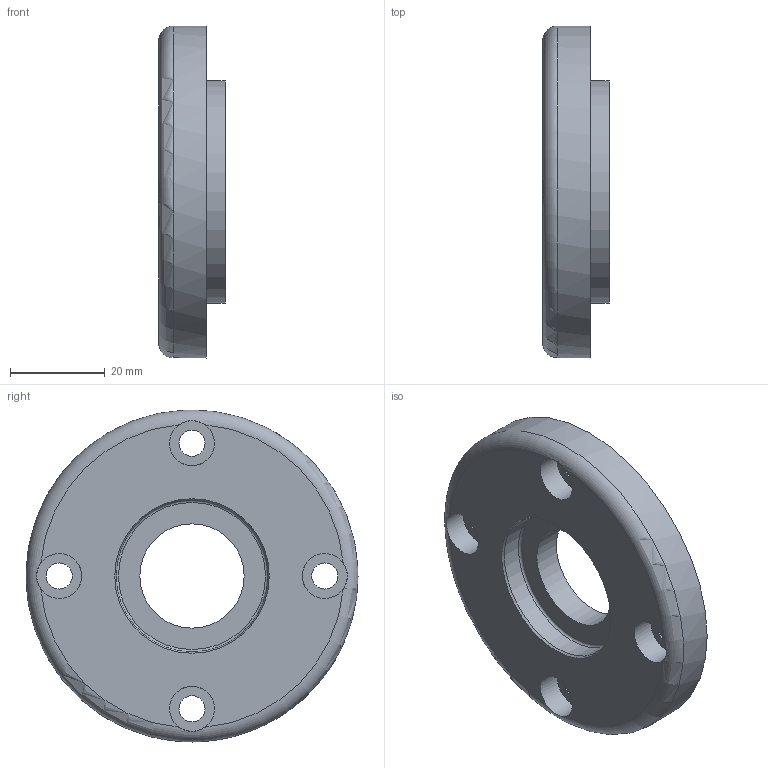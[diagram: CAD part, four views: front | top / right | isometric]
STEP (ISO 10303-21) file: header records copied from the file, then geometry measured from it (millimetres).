
FILE_DESCRIPTION(/* description */ (''),/* implementation_level */ '2;1');
FILE_NAME(/* name */ 'C:\Users\604\Desktop\600120E1001-커버.stp',/* time_stamp */ '2020-01-23T15:42:10+09:00',/* author */ ('604'),/* organization */ (''),/* preprocessor_version */ 'ST-DEVELOPER v16.13',/* originating_system */ 'Autodesk Inventor 2018',/* authorisation */ '');
FILE_SCHEMA (('AUTOMOTIVE_DESIGN { 1 0 10303 214 3 1 1 }'));
Length unit declared in the file: millimetre
Products named in the file (1): 커버
Bounding box: 14 x 70 x 70 mm (x, y, z)
Volume: 33883 mm3; surface area: 11261 mm2
Topology: 1 solids, 1 shells, 25 faces, 57 edges, 37 vertices
Faces by surface type: cylinder 12, plane 9, torus 3, cone 1
Full cylindrical faces by diameter (mm): 5.5 x4, 9.5 x4, 22 x1, 32 x1, 47 x1, 70 x1
Entity records: 689 total; most frequent: CARTESIAN_POINT 138, DIRECTION 116, ORIENTED_EDGE 72, AXIS2_PLACEMENT_3D 58, EDGE_LOOP 54, EDGE_CURVE 36, CIRCLE 32, VERTEX_POINT 32
